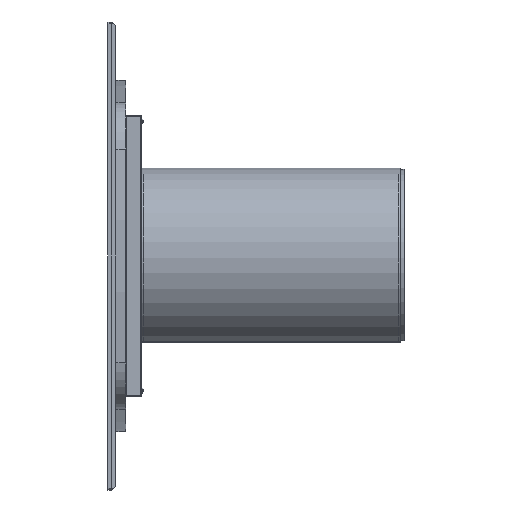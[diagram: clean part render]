
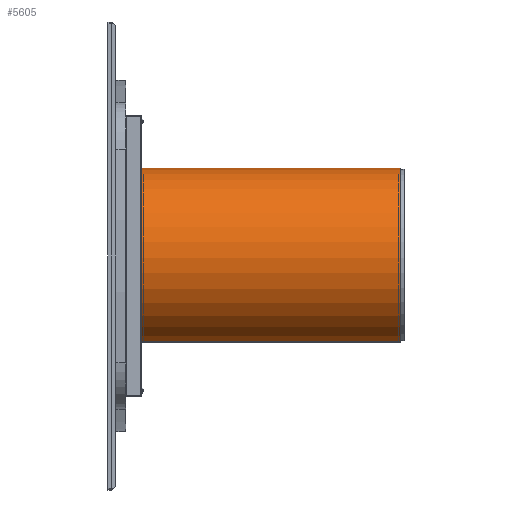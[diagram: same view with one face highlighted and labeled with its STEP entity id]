
A CAD part, left-side view. The second image highlights one B-rep face of the part: STEP entity #5605.
In plain terms, the highlighted cylindrical face has radius 230 mm (diameter 460 mm), a partial arc.
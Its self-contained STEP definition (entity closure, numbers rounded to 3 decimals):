
#163 = ORIENTED_EDGE ( 'NONE', *, *, #20671, .F. ) ;
#367 = ORIENTED_EDGE ( 'NONE', *, *, #2854, .T. ) ;
#1531 = CARTESIAN_POINT ( 'NONE',  ( 2., 665., 0. ) ) ;
#2056 = CARTESIAN_POINT ( 'NONE',  ( 2., 0., 230. ) ) ;
#2263 = CARTESIAN_POINT ( 'NONE',  ( 2., 665., -230. ) ) ;
#2489 = DIRECTION ( 'NONE',  ( 0., -1., 0. ) ) ;
#2568 = CIRCLE ( 'NONE', #17900, 230. ) ;
#2854 = EDGE_CURVE ( 'NONE', #9696, #21350, #13386, .T. ) ;
#3260 = DIRECTION ( 'NONE',  ( 0., 1., 0. ) ) ;
#3474 = DIRECTION ( 'NONE',  ( 0., 0., 1. ) ) ;
#3894 = DIRECTION ( 'NONE',  ( 0., -1., 0. ) ) ;
#4010 = CYLINDRICAL_SURFACE ( 'NONE', #16435, 230. ) ;
#4208 = EDGE_LOOP ( 'NONE', ( #17422, #7073, #163, #367 ) ) ;
#4470 = AXIS2_PLACEMENT_3D ( 'NONE', #1531, #3260, #3474 ) ;
#4704 = CARTESIAN_POINT ( 'NONE',  ( 2., 665., 230. ) ) ;
#4727 = VECTOR ( 'NONE', #2489, 1000. ) ;
#4905 = DIRECTION ( 'NONE',  ( 0., 0., 1. ) ) ;
#5605 = ADVANCED_FACE ( 'NONE', ( #7336 ), #4010, .T. ) ;
#5811 = EDGE_CURVE ( 'NONE', #21350, #7738, #2568, .T. ) ;
#6183 = EDGE_CURVE ( 'NONE', #11124, #7738, #12659, .T. ) ;
#7073 = ORIENTED_EDGE ( 'NONE', *, *, #6183, .F. ) ;
#7336 = FACE_OUTER_BOUND ( 'NONE', #4208, .T. ) ;
#7738 = VERTEX_POINT ( 'NONE', #21328 ) ;
#9696 = VERTEX_POINT ( 'NONE', #22300 ) ;
#10975 = DIRECTION ( 'NONE',  ( 0., 0., -1. ) ) ;
#11124 = VERTEX_POINT ( 'NONE', #22404 ) ;
#12659 = LINE ( 'NONE', #2263, #4727 ) ;
#13386 = LINE ( 'NONE', #4704, #14832 ) ;
#13968 = CIRCLE ( 'NONE', #4470, 230. ) ;
#14296 = CARTESIAN_POINT ( 'NONE',  ( 2., 665., 0. ) ) ;
#14636 = DIRECTION ( 'NONE',  ( 0., -1., 0. ) ) ;
#14832 = VECTOR ( 'NONE', #14636, 1000. ) ;
#15426 = CARTESIAN_POINT ( 'NONE',  ( 2., 0., 0. ) ) ;
#16435 = AXIS2_PLACEMENT_3D ( 'NONE', #14296, #3894, #10975 ) ;
#17153 = DIRECTION ( 'NONE',  ( 0., 1., 0. ) ) ;
#17422 = ORIENTED_EDGE ( 'NONE', *, *, #5811, .T. ) ;
#17900 = AXIS2_PLACEMENT_3D ( 'NONE', #15426, #17153, #4905 ) ;
#20671 = EDGE_CURVE ( 'NONE', #9696, #11124, #13968, .T. ) ;
#21328 = CARTESIAN_POINT ( 'NONE',  ( 2., 0., -230. ) ) ;
#21350 = VERTEX_POINT ( 'NONE', #2056 ) ;
#22300 = CARTESIAN_POINT ( 'NONE',  ( 2., 665., 230. ) ) ;
#22404 = CARTESIAN_POINT ( 'NONE',  ( 2., 665., -230. ) ) ;
